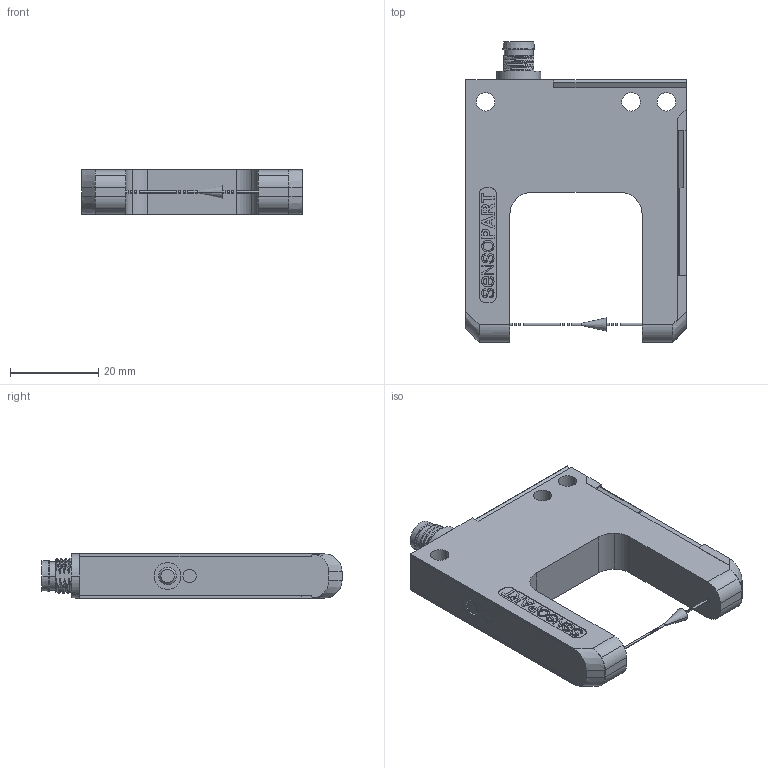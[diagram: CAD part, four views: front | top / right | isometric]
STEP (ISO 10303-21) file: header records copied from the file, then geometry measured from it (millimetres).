
FILE_DESCRIPTION((''),'2;1');
FILE_NAME('15300265_FGL30.stp','2015-11-19T11:04:06',(''),(''),'Mechanical Desktop 2009','Mechanical Desktop 2009',', , ');
FILE_SCHEMA(('CONFIG_CONTROL_DESIGN'));
Length unit declared in the file: millimetre
Products named in the file (10): DRAWING3; FGL 30_1; FGL30; DECKEL_EMPFAENGER_VERSION4_50ER; WEICHTEIL; 04913227_DECKEL_EMPFAENGER_VERSION4_30ER_03; ~~~~~~TEIL1; 04913229_DECKEL_SENDER_SCHWALBENSCHWANZ_VERSION4_30ER_03; ~~~~~~~TEIL1; OPTISCHE ACHSE_4
Assembly tree (9 placements, depth 4):
  DRAWING3
    FGL 30_1
      FGL30
      DECKEL_EMPFAENGER_VERSION4_50ER
        WEICHTEIL
      04913227_DECKEL_EMPFAENGER_VERSION4_30ER_03
        ~~~~~~TEIL1
      04913229_DECKEL_SENDER_SCHWALBENSCHWANZ_VERSION4_30ER_03
        ~~~~~~~TEIL1
      OPTISCHE ACHSE_4
Bounding box: 50 x 68.1 x 10 mm (x, y, z)
Volume: 18308 mm3; surface area: 10582.3 mm2
Topology: 14 solids, 14 shells, 767 faces, 2059 edges, 1366 vertices
Faces by surface type: bspline 337, plane 304, cylinder 114, cone 12
Entity records: 45186 total; most frequent: CARTESIAN_POINT 27916, ORIENTED_EDGE 4118, DIRECTION 2470, EDGE_CURVE 2059, VERTEX_POINT 1366, VECTOR 1120, LINE 1120, EDGE_LOOP 823
